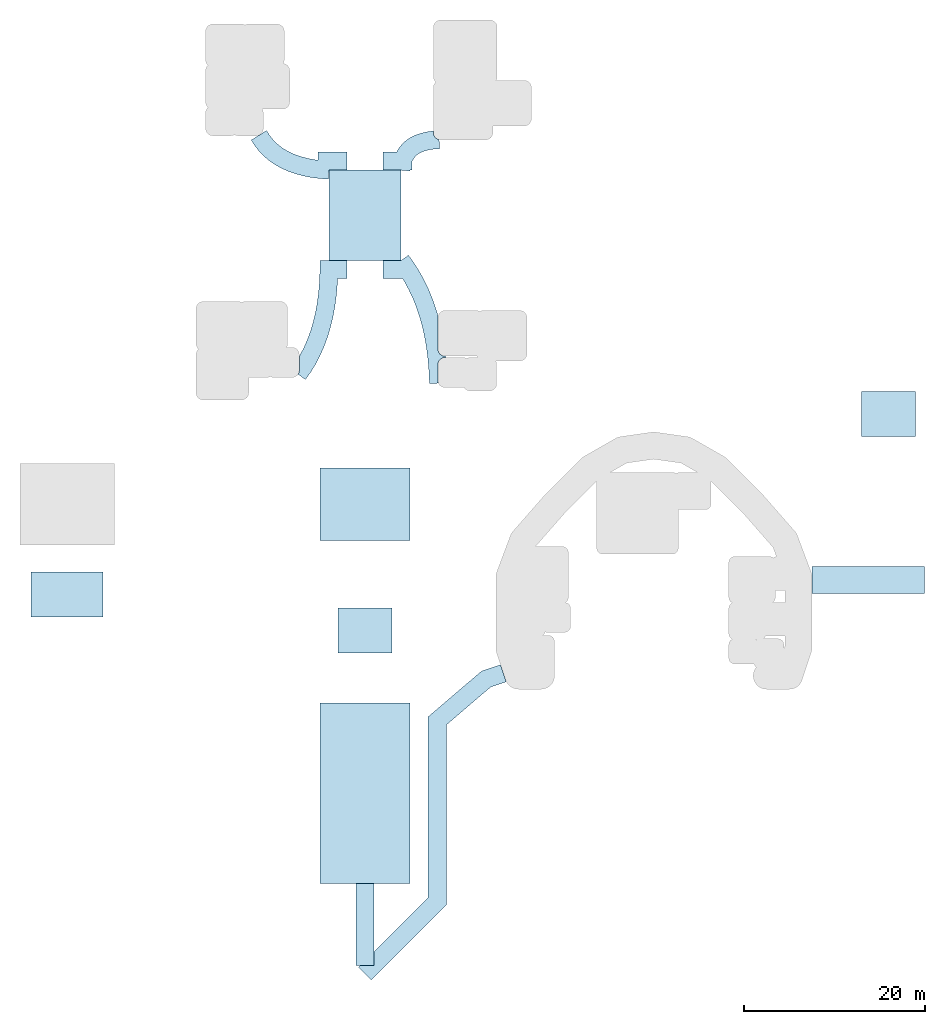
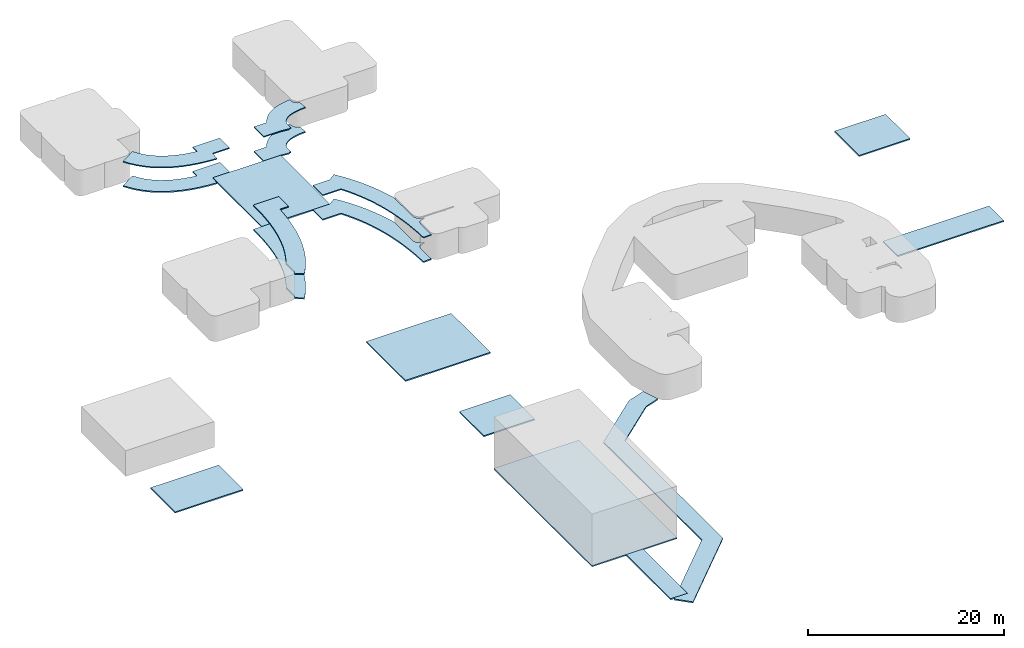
# One storey, part 1 of 2: 17 slabs, 4 elements without a shape of their own.
"""IFC2X3 building model written with IfcOpenShell, lengths in millimetres."""

from ifc_helpers import new_model, entity, si_unit, converted_unit, direction, frame, frame_2d, origin, origin_2d_with_axis, place, context, subcontext, project, spatial, polyline, rectangle, outline, extrude, material, layer, layer_set, layer_usage, type_object, element, aggregate, save


model = new_model("IFC2X3")

# Units and contexts
model_context = context("Model", 3, precision=0.01, world=origin(), true_north=direction((0.0, 1.0)))
body_context = subcontext(model_context, "Body", "Model", "MODEL_VIEW")
ifc_project = project(units=[si_unit("LENGTHUNIT", "METRE", prefix="MILLI"), si_unit("AREAUNIT", "SQUARE_METRE"), si_unit("VOLUMEUNIT", "CUBIC_METRE"), converted_unit("PLANEANGLEUNIT", "DEGREE", entity("IfcPlaneAngleMeasure", 0.017453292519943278), si_unit("PLANEANGLEUNIT", "RADIAN"), dimensions=[0, 0, 0, 0, 0, 0, 0])], contexts=[model_context])

# Site, building, storey
site_placement = place(None, origin())
site = spatial("IfcSite", under=ifc_project, at=site_placement, Name="Default", CompositionType="ELEMENT")
building_placement = place(site_placement, origin())
building = spatial("IfcBuilding", under=site, at=building_placement, CompositionType="ELEMENT")
storey_placement = place(building_placement, origin())
storey = spatial("IfcBuildingStorey", under=building, at=storey_placement, Name="Nível 1", CompositionType="ELEMENT", Elevation=0.0)

# Slabs
ifc_material_1 = material(Name="Material pré-definido de piso")
ifc_layer_1 = layer(ifc_material_1, 149.99999999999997)
ifc_layer_set_1 = layer_set([ifc_layer_1], Name="Piso:Genérico 150 mm - Preenchido")
ifc_layer_usage_1 = layer_usage(ifc_layer_set_1, "AXIS3", "POSITIVE", 0.0)
slab_type_1 = type_object("IfcSlabType", Name="Piso:Genérico 150 mm - Preenchido", PredefinedType="FLOOR", material=ifc_layer_set_1)
slab_1_placement = place(storey_placement, origin())
element("IfcSlab", 1, at=slab_1_placement, inside=storey, type_object=slab_type_1, material=ifc_layer_usage_1, Name="Piso:Genérico 150 mm - Preenchido", PredefinedType="FLOOR", context=body_context, shape_type="SweptSolid", body=[
    extrude(rectangle(XDim=10000.0, YDim=7999.999999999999, at=frame_2d((2.2737367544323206e-12, 0.0), x_axis=(1.0, 0.0))), frame((0.0, 22000.0, 0.0), z_axis=(0.0, 0.0, -1.0), x_axis=(0.0, 1.0, 0.0)), (0.0, 0.0, 1.0), 149.99999999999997),
])
ifc_layer_usage_2 = layer_usage(ifc_layer_set_1, "AXIS3", "POSITIVE", 0.0)
slab_2_placement = place(storey_placement, origin())
element("IfcSlab", 2, at=slab_2_placement, inside=storey, type_object=slab_type_1, material=ifc_layer_usage_2, Name="Piso:Genérico 150 mm - Preenchido", PredefinedType="FLOOR", context=body_context, shape_type="SweptSolid", body=[
    extrude(rectangle(XDim=8000.0, YDim=9999.999999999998, at=frame_2d((-6.821210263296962e-13, 0.0), x_axis=(1.0, 0.0))), frame((0.0, -10000.0, 0.0), z_axis=(0.0, 0.0, -1.0), x_axis=(0.0, 1.0, 0.0)), (0.0, 0.0, 1.0), 149.99999999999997),
])
ifc_layer_usage_3 = layer_usage(ifc_layer_set_1, "AXIS3", "POSITIVE", 0.0)
slab_3_placement = place(storey_placement, origin())
element("IfcSlab", 3, at=slab_3_placement, inside=storey, type_object=slab_type_1, material=ifc_layer_usage_3, Name="Piso:Genérico 150 mm - Preenchido", PredefinedType="FLOOR", context=body_context, shape_type="SweptSolid", body=[
    extrude(rectangle(XDim=4999.999999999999, YDim=5999.999999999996, at=frame_2d((0.0, -4.320099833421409e-12), x_axis=(1.0, 0.0))), frame((58000.0, 0.0, 0.0), z_axis=(0.0, 0.0, -1.0), x_axis=(0.0, 1.0, 0.0)), (0.0, 0.0, 1.0), 149.99999999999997),
])
ifc_layer_usage_4 = layer_usage(ifc_layer_set_1, "AXIS3", "POSITIVE", 0.0)
slab_4_placement = place(storey_placement, origin())
element("IfcSlab", 4, at=slab_4_placement, inside=storey, type_object=slab_type_1, material=ifc_layer_usage_4, Name="Piso:Genérico 150 mm - Preenchido", PredefinedType="FLOOR", context=body_context, shape_type="SweptSolid", body=[
    extrude(rectangle(XDim=4999.999999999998, YDim=5999.999999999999, at=origin_2d_with_axis()), frame((0.0, -24000.0, 0.0), z_axis=(0.0, 0.0, -1.0), x_axis=(0.0, 1.0, 0.0)), (0.0, 0.0, 1.0), 149.99999999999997),
])
ifc_layer_usage_5 = layer_usage(ifc_layer_set_1, "AXIS3", "POSITIVE", 0.0)
slab_5_placement = place(storey_placement, origin())
element("IfcSlab", 5, at=slab_5_placement, inside=storey, type_object=slab_type_1, material=ifc_layer_usage_5, Name="Piso:Genérico 150 mm - Preenchido", PredefinedType="FLOOR", context=body_context, shape_type="SweptSolid", body=[
    extrude(rectangle(XDim=5000.000000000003, YDim=7999.999999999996, at=frame_2d((2.2737367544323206e-12, 2.2737367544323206e-12), x_axis=(1.0, 0.0))), frame((-33000.0, -20000.0, 0.0), z_axis=(0.0, 0.0, -1.0), x_axis=(0.0, 1.0, 0.0)), (0.0, 0.0, 1.0), 149.99999999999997),
])
ifc_layer_usage_6 = layer_usage(ifc_layer_set_1, "AXIS3", "POSITIVE", 0.0)
slab_6_placement = place(storey_placement, origin())
element("IfcSlab", 6, at=slab_6_placement, inside=storey, type_object=slab_type_1, material=ifc_layer_usage_6, Name="Piso:Genérico 150 mm - Preenchido", PredefinedType="FLOOR", context=body_context, shape_type="SweptSolid", body=[
    extrude(outline(polyline([(7929.958645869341, -11214.156843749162), (10125.252936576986, -11214.15684374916), (10125.252936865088, -9214.156843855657), (8320.547227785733, -9214.156843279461), (2308.9846757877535, -6773.003924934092), (-4000.893424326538, 12156.63038449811), (-14490.665809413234, 17401.516578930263), (-15385.09300043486, 15612.66219753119), (-5636.2883619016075, 10738.25987650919), (702.9441731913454, -8279.437737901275), (7929.958645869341, -11214.156843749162)])), frame((8951.316702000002, -41616.227766, 0.0), z_axis=(0.0, 0.0, -1.0), x_axis=(0.9486832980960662, 0.3162277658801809, 0.0)), (0.0, 0.0, 1.0), 149.99999999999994),
])
ifc_layer_usage_7 = layer_usage(ifc_layer_set_1, "AXIS3", "POSITIVE", 0.0)
slab_7_placement = place(storey_placement, origin())
element("IfcSlab", 7, at=slab_7_placement, inside=storey, type_object=slab_type_1, material=ifc_layer_usage_7, Name="Piso:Genérico 150 mm - Preenchido", PredefinedType="FLOOR", context=body_context, shape_type="SweptSolid", body=[
    extrude(rectangle(XDim=2999.999999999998, YDim=12500.0, at=frame_2d((-2.1600499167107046e-12, 0.0), x_axis=(1.0, 0.0))), frame((55750.0, -18385.786437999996, 0.0), z_axis=(0.0, 0.0, -1.0), x_axis=(0.0, 1.0, 0.0)), (0.0, 0.0, 1.0), 149.99999999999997),
])
ifc_layer_usage_8 = layer_usage(ifc_layer_set_1, "AXIS3", "POSITIVE", 0.0)
slab_8_placement = place(storey_placement, origin())
element("IfcSlab", 8, at=slab_8_placement, inside=storey, type_object=slab_type_1, material=ifc_layer_usage_8, Name="Piso:Genérico 150 mm - Preenchido", PredefinedType="FLOOR", context=body_context, shape_type="SweptSolid", body=[
    extrude(rectangle(XDim=9081.664260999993, YDim=2000.0000000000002, at=origin_2d_with_axis()), frame((0.0, -56540.8321305, 0.0), z_axis=(0.0, 0.0, -1.0), x_axis=(0.0, 1.0, 0.0)), (0.0, 0.0, 1.0), 149.99999999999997),
])
ifc_layer_2 = layer(ifc_material_1, 149.99999999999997)
ifc_layer_set_2 = layer_set([ifc_layer_2], Name="Piso:Genérico 150 mm")
ifc_layer_usage_9 = layer_usage(ifc_layer_set_2, "AXIS3", "POSITIVE", 0.0)
slab_type_2 = type_object("IfcSlabType", Name="Piso:Genérico 150 mm", PredefinedType="FLOOR", material=ifc_layer_set_2)
slab_9_placement = place(storey_placement, origin())
element("IfcSlab", 9, at=slab_9_placement, inside=storey, type_object=slab_type_2, material=ifc_layer_usage_9, Name="Piso:Genérico 150 mm", PredefinedType="FLOOR", context=body_context, shape_type="SweptSolid", body=[
    extrude(outline(polyline([(-660.6207413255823, -6453.693493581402), (1339.3792586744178, -6453.693493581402), (1339.3792586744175, -4453.693493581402), (2336.480010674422, -4377.600848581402), (2265.2032766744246, -3443.606704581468), (2259.413915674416, -3388.163323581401), (2142.419213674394, -2506.4415245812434), (2132.4046976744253, -2445.4770495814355), (1969.6920266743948, -1616.0275975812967), (1954.2629586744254, -1549.4926185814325), (1745.8323186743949, -772.3155135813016), (1723.647406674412, -700.4996765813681), (1469.4987986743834, 24.405082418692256), (1439.1638076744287, 100.73383041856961), (1139.2972306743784, 773.3662424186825), (1099.5440246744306, 852.8403694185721), (753.9594796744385, 1473.2004354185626), (703.904078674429, 1553.8054654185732), (312.6015646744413, 2121.8931844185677), (252.0389806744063, 2201.059931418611), (-184.98150232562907, 2716.875304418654), (-255.33766232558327, 2791.751469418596), (-738.0761143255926, 3255.2944954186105), (-816.5243743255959, 3323.1643294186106), (-1344.980795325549, 3734.435009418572), (-1429.0061873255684, 3793.168852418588), (-2003.1805763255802, 4152.1671864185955), (-2533.327477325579, 3304.2613754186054), (-2607.2554143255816, 3165.951935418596), (-2659.9515193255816, 3101.741544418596), (-3063.4743783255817, 2456.3555654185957), (-2532.8199853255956, 2124.567790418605), (-2085.855542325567, 1776.7181604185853), (-1677.6826723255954, 1384.7757184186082), (-1306.1709393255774, 946.2803384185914), (-970.1163763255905, 458.40085041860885), (-669.2892773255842, -81.6149615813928), (-404.26815032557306, -676.0853495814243), (-176.1612913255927, -1326.71156658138), (13.676054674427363, -2034.5596975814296), (163.861620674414, -2800.1505665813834), (224.04173567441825, -3253.693493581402), (-660.6207413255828, -3253.693493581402), (-660.6207413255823, -6453.693493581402)])), frame((-8453.693493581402, 28339.379258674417, 0.0), z_axis=(0.0, 0.0, -1.0), x_axis=(0.0, -1.0, 0.0)), (0.0, 0.0, 1.0), 149.99999999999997),
])
ifc_layer_usage_10 = layer_usage(ifc_layer_set_2, "AXIS3", "POSITIVE", 0.0)
slab_10_placement = place(storey_placement, origin())
element("IfcSlab", 10, at=slab_10_placement, inside=storey, type_object=slab_type_2, material=ifc_layer_usage_10, Name="Piso:Genérico 150 mm", PredefinedType="FLOOR", context=body_context, shape_type="SweptSolid", body=[
    extrude(outline(polyline([(-7191.69045770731, -2920.7955049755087), (-5191.690457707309, -2920.7955049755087), (-5191.690457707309, -1885.0241719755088), (-4570.081649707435, -1857.1970949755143), (-4527.030139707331, -1854.3381059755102), (-3309.87887070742, -1747.0912399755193), (-3263.8823247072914, -1741.9632059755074), (-2094.2593347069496, -1584.0843979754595), (-2045.333524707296, -1576.2415059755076), (-923.238813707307, -1367.7307559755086), (-871.4948287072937, -1356.6919369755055), (203.0716042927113, -1097.5492439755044), (257.40228829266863, -1082.8169899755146), (1284.440442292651, -773.0423549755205), (1340.983117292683, -754.131553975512), (2320.492991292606, -393.7249769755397), (2378.7138582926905, -370.20213497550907), (3310.695454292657, 40.836385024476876), (3369.8985572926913, 69.30543702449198), (4254.351873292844, 530.9758990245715), (4313.694491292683, 564.5747210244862), (5150.619529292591, 1076.87712402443), (5209.149674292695, 1115.5918550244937), (5998.546432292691, 1678.5262010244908), (5417.93705829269, 2492.7084620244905), (5279.627617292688, 2418.78052502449), (5129.553129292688, 2373.255927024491), (4973.480872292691, 2357.8841510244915), (3412.5060212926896, 2357.8841510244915), (3298.634198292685, 2288.1804070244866), (2473.5590812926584, 1857.5044150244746), (1600.3878222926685, 1472.4034400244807), (678.3471732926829, 1133.1424250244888), (-293.1797157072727, 840.111064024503), (-1314.647464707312, 593.7736620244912), (-2386.3584007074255, 394.62536502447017), (-3508.482377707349, 243.15809902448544), (-4681.081115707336, 139.8368900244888), (-5904.133007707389, 85.08547902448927), (-7196.249887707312, 79.19410102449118), (-7191.69045770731, -2920.7955049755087)])), frame((-4920.795504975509, 9808.309542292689, 0.0), z_axis=(0.0, 0.0, -1.0), x_axis=(0.0, -1.0, 0.0)), (0.0, 0.0, 1.0), 149.99999999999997),
])
ifc_layer_usage_11 = layer_usage(ifc_layer_set_2, "AXIS3", "POSITIVE", 0.0)
slab_11_placement = place(storey_placement, origin())
element("IfcSlab", 11, at=slab_11_placement, inside=storey, type_object=slab_type_2, material=ifc_layer_usage_11, Name="Piso:Genérico 150 mm", PredefinedType="FLOOR", context=body_context, shape_type="SweptSolid", body=[
    extrude(outline(polyline([(5310.469203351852, -5092.018044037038), (7310.469203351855, -5092.018044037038), (7310.469203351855, -3092.0180440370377), (7892.969099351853, -2279.1872670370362), (7010.505939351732, -1646.7866330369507), (6957.986753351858, -1611.6077120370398), (6029.979220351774, -1031.6307450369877), (5976.430153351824, -1000.4289270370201), (5002.878246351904, -472.8756270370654), (4949.004400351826, -445.75116303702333), (3929.908119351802, 29.378469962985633), (3876.3689403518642, 52.4644929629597), (2811.72828635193, 475.1704579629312), (2759.1070923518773, 494.37518396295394), (1648.9220643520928, 864.6574809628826), (1597.7067523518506, 880.2290969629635), (1158.8913233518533, 1000.9158869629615), (1127.2016323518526, 991.3029239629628), (971.1293753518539, 975.9311479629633), (-2492.972239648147, 975.9311479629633), (-2649.0444976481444, 991.3029239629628), (-2799.1189856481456, 1036.8275219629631), (-2937.4284266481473, 1110.7554589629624), (-3058.6576646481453, 1210.24572296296), (-3158.1479296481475, 1331.4749619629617), (-3232.075865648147, 1469.7844029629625), (-3277.6004646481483, 1619.8588909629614), (-3292.972239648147, 1775.93114796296), (-3292.972239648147, 1846.9785599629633), (-3428.8706246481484, 1863.8651519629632), (-3428.8706246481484, 1775.9311479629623), (-3444.242400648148, 1619.8588909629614), (-3489.766998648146, 1469.7844029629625), (-3563.694934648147, 1331.4749619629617), (-3663.1851996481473, 1210.245722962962), (-3784.414438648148, 1110.7554589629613), (-3922.723878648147, 1036.8275219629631), (-4072.7983676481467, 991.3029239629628), (-4228.870624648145, 975.9311479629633), (-5978.870624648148, 975.9311479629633), (-6134.942882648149, 991.3029239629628), (-6285.017370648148, 1036.8275219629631), (-6325.2754606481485, 37.63820796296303), (-4962.01117864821, -17.288736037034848), (-3665.6529346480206, -122.09366903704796), (-2417.229768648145, -277.2214380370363), (-1216.6708616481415, -482.3296230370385), (-63.830285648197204, -737.0627250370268), (1041.526407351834, -1041.0674200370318), (2099.732595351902, -1394.0131080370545), (3111.225464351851, -1795.6172250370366), (4076.5426783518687, -2245.6736350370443), (4996.308656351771, -2744.081139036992), (5310.469203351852, -2940.422090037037), (5310.469203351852, -5092.018044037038)])), frame((7092.018044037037, 9689.530796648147, 0.0), z_axis=(0.0, 0.0, -1.0), x_axis=(0.0, 1.0, 0.0)), (0.0, 0.0, 1.0), 149.99999999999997),
])
ifc_layer_usage_12 = layer_usage(ifc_layer_set_2, "AXIS3", "POSITIVE", 0.0)
slab_12_placement = place(storey_placement, origin())
element("IfcSlab", 12, at=slab_12_placement, inside=storey, type_object=slab_type_2, material=ifc_layer_usage_12, Name="Piso:Genérico 150 mm", PredefinedType="FLOOR", context=body_context, shape_type="SweptSolid", body=[
    extrude(outline(polyline([(-2675.919308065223, -3759.943280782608), (-675.919308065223, -3759.943280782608), (-675.919308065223, -2263.900266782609), (-360.28765506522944, -2089.115567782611), (-293.72234206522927, -2048.792467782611), (-230.49442806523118, -2003.4148927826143), (117.05234893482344, -1732.891576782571), (177.03719293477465, -1682.2989217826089), (232.87031793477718, -1627.158552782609), (536.3169659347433, -1302.9909507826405), (585.7293039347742, -1246.0455257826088), (630.7108719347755, -1185.539168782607), (890.0573889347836, -807.7272817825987), (960.4354909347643, -688.2042617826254), (1175.6818779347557, -256.74808878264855), (1223.8858249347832, -143.04049078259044), (1395.032081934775, 342.0599682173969), (1425.3048869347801, 445.2433932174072), (1552.351013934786, 983.9881382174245), (1569.3869159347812, 1074.8445542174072), (1652.3329129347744, 1667.2335842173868), (1660.1909029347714, 1745.8789272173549), (1663.9265879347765, 1808.005911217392), (1485.4679039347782, 1808.005911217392), (1329.3956469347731, 1823.3776872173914), (1179.3211589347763, 1868.9022852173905), (1041.0117179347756, 1942.8302222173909), (919.7824799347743, 2042.3204862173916), (820.2922149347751, 2163.5497252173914), (746.3642779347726, 2301.8591662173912), (700.8396799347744, 2451.93365421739), (-297.35741006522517, 2511.955065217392), (-333.8294680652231, 1905.3998102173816), (-404.87526506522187, 1398.000389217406), (-508.9430190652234, 956.6964532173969), (-641.5905120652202, 580.7176802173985), (-798.1829360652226, 266.83195821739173), (-975.4259470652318, 8.627154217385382), (-1173.4877020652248, -202.95931378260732), (-1397.413221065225, -377.25836578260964), (-1656.274116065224, -520.6055967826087), (-1761.2841080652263, -559.9432807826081), (-2675.919308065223, -559.9432807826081), (-2675.919308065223, -754.2586417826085), (-2782.093989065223, -765.595787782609), (-2675.919308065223, -1759.9432807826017), (-2675.919308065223, -3759.943280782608)])), frame((5759.943280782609, 29675.919308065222, 0.0), z_axis=(0.0, 0.0, -1.0), x_axis=(0.0, 1.0, 0.0)), (0.0, 0.0, 1.0), 149.99999999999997),
])
ifc_layer_usage_13 = layer_usage(ifc_layer_set_2, "AXIS3", "POSITIVE", 0.0)
slab_13_placement = place(storey_placement, origin())
element("IfcSlab", 13, at=slab_13_placement, inside=storey, type_object=slab_type_2, material=ifc_layer_usage_13, Name="Piso:Genérico 150 mm", PredefinedType="FLOOR", context=body_context, shape_type="SweptSolid", body=[
    extrude(rectangle(XDim=20000.0, YDim=10000.0, at=frame_2d((-4.547473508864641e-12, 0.0), x_axis=(1.0, 0.0))), frame((0.0, -42000.0, 0.0), z_axis=(0.0, 0.0, -1.0), x_axis=(0.0, 1.0, 0.0)), (0.0, 0.0, 1.0), 149.99999999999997),
])

# Roof, slab
ifc_material_2 = material(Name="Telhado padrão")
ifc_layer_3 = layer(ifc_material_2, 124.99999999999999)
ifc_layer_set_3 = layer_set([ifc_layer_3], Name="Telhado básico:Genérico - 125 mm")
roof_1_placement = place(storey_placement, frame((-12605.860679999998, 26002.899247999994, 2900.0)))
roof_1 = element("IfcRoof", 14, at=roof_1_placement, inside=storey, material=ifc_layer_set_3, Name="Telhado básico:Genérico - 125 mm", ShapeType="NOTDEFINED")
slab_type_3 = type_object("IfcSlabType", Name="Telhado básico:Genérico - 125 mm", PredefinedType="ROOF")
slab_14_placement = place(roof_1_placement, origin())
slab_14 = element("IfcSlab", 15, at=slab_14_placement, type_object=slab_type_3, material=ifc_layer_set_3, Name="Telhado básico:Genérico - 125 mm", PredefinedType="ROOF", context=body_context, shape_type="SweptSolid", body=[
    extrude(outline(polyline([(2102.930339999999, 297.12355750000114), (2102.930339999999, -587.5389194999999), (1649.3874129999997, -527.3588045), (883.7965440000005, -377.1732385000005), (175.94841299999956, -187.33589249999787), (-474.67780400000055, 40.77096649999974), (-1069.1481919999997, 305.7920934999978), (-1609.1640040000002, 606.6191924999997), (-2097.0434920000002, 942.6737554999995), (-2535.5388719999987, 1314.1854885), (-2927.4813139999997, 1722.3583584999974), (-3275.330944, 2169.3228015), (-3607.1187189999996, 2699.9771944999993), (-4252.504698, 2296.4543354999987), (-4316.715088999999, 2243.7582304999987), (-4455.024529, 2169.8302935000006), (-5302.930339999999, 1639.6833924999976), (-4943.932006, 1065.5090034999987), (-4885.198162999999, 981.4836114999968), (-4473.927483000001, 453.0271905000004), (-4406.057649, 374.5789304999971), (-3942.5146230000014, -108.15952149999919), (-3867.638457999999, -178.51568150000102), (-3351.823084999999, -615.5361645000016), (-3272.656338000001, -676.098748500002), (-2704.5686190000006, -1067.4012624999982), (-2623.9635890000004, -1117.4566635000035), (-2003.603523, -1463.0412084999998), (-1924.129395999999, -1502.7944144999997), (-1251.4969840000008, -1802.6609914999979), (-1175.1682360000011, -1832.9959825), (-450.2634770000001, -2087.144590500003), (-378.44763999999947, -2109.329502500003), (398.7294650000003, -2317.7601424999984), (465.2644439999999, -2333.1892104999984), (1294.7138959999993, -2495.9018815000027), (1355.6783709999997, -2505.916397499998), (2237.4001699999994, -2622.9110994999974), (2292.8435509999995, -2628.700460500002), (3226.8376949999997, -2699.9771945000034), (3302.930339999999, -1702.876442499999), (5302.930339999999, -1702.876442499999), (5302.930339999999, 297.12355750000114), (2102.930339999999, 297.12355750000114)])), frame((5302.930339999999, 2699.9771945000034, 0.0)), (0.0, 0.0, 1.0), 124.99999999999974),
])
aggregate(roof_1, [slab_14])

roof_2_placement = place(storey_placement, frame((-7413.503967, 3809.76311, 2900.0)))
roof_2 = element("IfcRoof", 16, at=roof_2_placement, inside=storey, material=ifc_layer_set_3, Name="Telhado básico:Genérico - 125 mm", ShapeType="NOTDEFINED")
slab_15_placement = place(roof_2_placement, origin())
slab_15 = element("IfcSlab", 17, at=slab_15_placement, type_object=slab_type_3, material=ifc_layer_set_3, Name="Telhado básico:Genérico - 125 mm", PredefinedType="ROOF", context=body_context, shape_type="SweptSolid", body=[
    extrude(outline(polyline([(-2071.5479364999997, -3072.410808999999), (-2502.223928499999, -3897.485925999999), (-2571.9276725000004, -4011.357748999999), (-2571.9276725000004, -5572.332599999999), (-2587.2994485, -5728.4048569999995), (-2632.8240464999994, -5878.479345), (-2706.7519835, -6016.788785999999), (-1892.5697224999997, -6597.39816), (-1329.6353764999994, -5808.001402), (-1290.9206454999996, -5749.471256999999), (-778.6182424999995, -4912.546219), (-745.0194204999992, -4853.203601), (-283.34895849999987, -3968.750285), (-254.87990649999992, -3909.547182), (156.15861350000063, -2977.565586), (179.68145549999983, -2919.3447189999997), (540.0880324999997, -1939.8348449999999), (558.9988335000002, -1883.2921699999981), (868.7734685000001, -856.2540159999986), (883.5057225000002, -801.923331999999), (1142.6484154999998, 272.64310100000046), (1153.6872345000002, 324.3870859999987), (1362.1979845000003, 1446.4817969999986), (1370.0408764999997, 1495.4076070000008), (1527.9196845, 2665.0305970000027), (1533.0477185, 2711.027142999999), (1640.2945845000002, 3928.178412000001), (1643.1535735, 3971.229921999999), (1670.9806505, 4592.8387299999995), (2706.7519835, 4592.8387299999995), (2706.7519835, 6592.8387299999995), (-293.23762250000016, 6597.39816), (-299.1290005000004, 5305.281279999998), (-353.8804115, 4082.2293879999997), (-457.2016204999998, 2909.6306499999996), (-608.6688864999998, 1787.5066730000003), (-807.8171835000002, 715.7957369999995), (-1054.1545855, -305.67201199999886), (-1347.1859465, -1277.198901), (-1686.4469614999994, -2199.2395500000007), (-2071.5479364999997, -3072.410808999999)])), frame((2706.7519835, 6597.39816, 0.0)), (0.0, 0.0, 1.0), 124.99999999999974),
])
aggregate(roof_2, [slab_15])

roof_3_placement = place(storey_placement, frame((2000.0, 3364.2553360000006, 2900.0)))
roof_3 = element("IfcRoof", 18, at=roof_3_placement, inside=storey, material=ifc_layer_set_3, Name="Telhado básico:Genérico - 125 mm", ShapeType="NOTDEFINED")
slab_16_placement = place(roof_3_placement, origin())
slab_16 = element("IfcSlab", 19, at=slab_16_placement, type_object=slab_type_3, material=ifc_layer_set_3, Name="Telhado básico:Genérico - 125 mm", PredefinedType="ROOF", context=body_context, shape_type="SweptSolid", body=[
    extrude(outline(polyline([(1336.8550079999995, -3201.076588), (1491.9827769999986, -4449.499754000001), (1596.7877099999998, -5745.857998), (1651.7146539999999, -7109.12228), (2650.903968, -7068.864189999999), (2605.3793699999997, -6918.789701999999), (2590.007594, -6762.717443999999), (2590.007594, -5012.717444), (2605.3793699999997, -4856.645187), (2650.903968, -4706.5706979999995), (2724.831904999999, -4568.261258), (2824.3221689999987, -4447.032019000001), (2945.5514079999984, -4347.541754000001), (3083.8608489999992, -4273.613818), (3233.9353369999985, -4228.089220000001), (3390.007593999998, -4212.717444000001), (3477.941598, -4212.717444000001), (3461.055006, -4076.819059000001), (3390.007593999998, -4076.819059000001), (3233.9353369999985, -4061.4472840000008), (3083.8608489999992, -4015.922685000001), (2945.5514079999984, -3941.9947490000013), (2824.3221689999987, -3842.504484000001), (2724.831904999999, -3721.2752459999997), (2650.903968, -3582.9658050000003), (2605.3793699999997, -3432.891317), (2590.007594, -3276.8190589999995), (2590.007594, 187.28255600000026), (2605.3793699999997, 343.3548129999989), (2614.9923329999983, 375.0445039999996), (2494.305542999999, 813.8599329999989), (2478.7339269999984, 865.0752449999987), (2108.4516299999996, 1975.260273), (2089.2469039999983, 2027.8814670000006), (1666.5409389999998, 3092.5221209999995), (1643.4549159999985, 3146.061299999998), (1168.3252829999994, 4165.157580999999), (1141.2008189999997, 4219.031426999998), (613.6475189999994, 5192.583334), (582.4457009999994, 5246.132400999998), (2.468733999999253, 6174.139933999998), (-32.710187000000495, 6226.659119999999), (-665.1108210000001, 7109.12228), (-1477.9415980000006, 6526.622383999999), (-3477.941598, 6526.622383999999), (-3477.941598, 4526.622383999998), (-1326.3456440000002, 4526.622383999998), (-1130.0046930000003, 4212.461837), (-631.5971890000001, 3292.695859), (-181.54077900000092, 2327.3786449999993), (220.06333799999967, 1315.8857759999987), (573.0090259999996, 257.6795879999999), (877.0137209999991, -847.6771050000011), (1131.7468229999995, -2000.5176809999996), (1336.8550079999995, -3201.076588)])), frame((3477.941598, 7109.12228, 0.0)), (0.0, 0.0, 1.0), 124.99999999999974),
])
aggregate(roof_3, [slab_16])

roof_4_placement = place(storey_placement, frame((2000.0, 26893.825319, 2900.0)))
roof_4 = element("IfcRoof", 20, at=roof_4_placement, inside=storey, material=ifc_layer_set_3, Name="Telhado básico:Genérico - 125 mm", ShapeType="NOTDEFINED")
slab_17_placement = place(roof_4_placement, origin())
slab_17 = element("IfcSlab", 21, at=slab_17_placement, type_object=slab_type_3, material=ifc_layer_set_3, Name="Telhado básico:Genérico - 125 mm", PredefinedType="ROOF", context=body_context, shape_type="SweptSolid", body=[
    extrude(outline(polyline([(64.05082700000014, -2116.835607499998), (64.05082700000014, -1202.200407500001), (103.38851099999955, -1097.1904154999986), (246.73574199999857, -838.3295204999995), (421.0347939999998, -614.4040014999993), (632.621261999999, -416.342246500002), (890.8260659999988, -239.0992354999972), (1204.7117879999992, -82.5068114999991), (1580.6905609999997, 50.14068150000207), (2021.9944969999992, 154.2084354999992), (2529.3939179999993, 225.2542325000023), (3135.949173, 261.7262905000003), (3075.9277619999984, 1259.9233805), (2925.853273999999, 1305.447978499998), (2787.5438329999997, 1379.3759155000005), (2666.314594, 1478.8661804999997), (2566.824329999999, 1600.095418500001), (2492.8963929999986, 1738.4048595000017), (2447.3717949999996, 1888.4793474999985), (2432.000019, 2044.5516045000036), (2432.000019, 2223.010288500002), (2369.8730349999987, 2219.2746035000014), (2291.2276919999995, 2211.4166134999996), (1698.8386619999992, 2128.470616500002), (1607.9822459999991, 2111.4347145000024), (1069.2375009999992, 1984.3885875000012), (966.0540759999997, 1954.1157825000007), (480.9536169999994, 1782.9695255), (367.2460189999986, 1734.7655784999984), (-64.2101540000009, 1519.5191914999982), (-183.73317400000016, 1449.1410895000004), (-561.5450610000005, 1189.7945725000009), (-622.0514180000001, 1144.8130044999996), (-678.9968430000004, 1095.400666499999), (-1003.1644450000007, 791.9540185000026), (-1058.3048140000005, 736.1208935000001), (-1108.8974690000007, 676.1360495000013), (-1379.4207850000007, 328.58927250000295), (-1424.79836, 265.3613585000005), (-1465.1214600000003, 198.7960455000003), (-1639.9061590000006, -116.83560749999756), (-3135.949173, -116.83560749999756), (-3135.949173, -2116.835607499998), (-1135.9491730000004, -2116.835607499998), (-141.60168000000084, -2223.010288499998), (-130.26453400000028, -2116.835607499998), (64.05082700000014, -2116.835607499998)])), frame((3135.949173, 2223.010288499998, 0.0)), (0.0, 0.0, 1.0), 124.99999999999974),
])
aggregate(roof_4, [slab_17])

save(model, "model.ifc")
